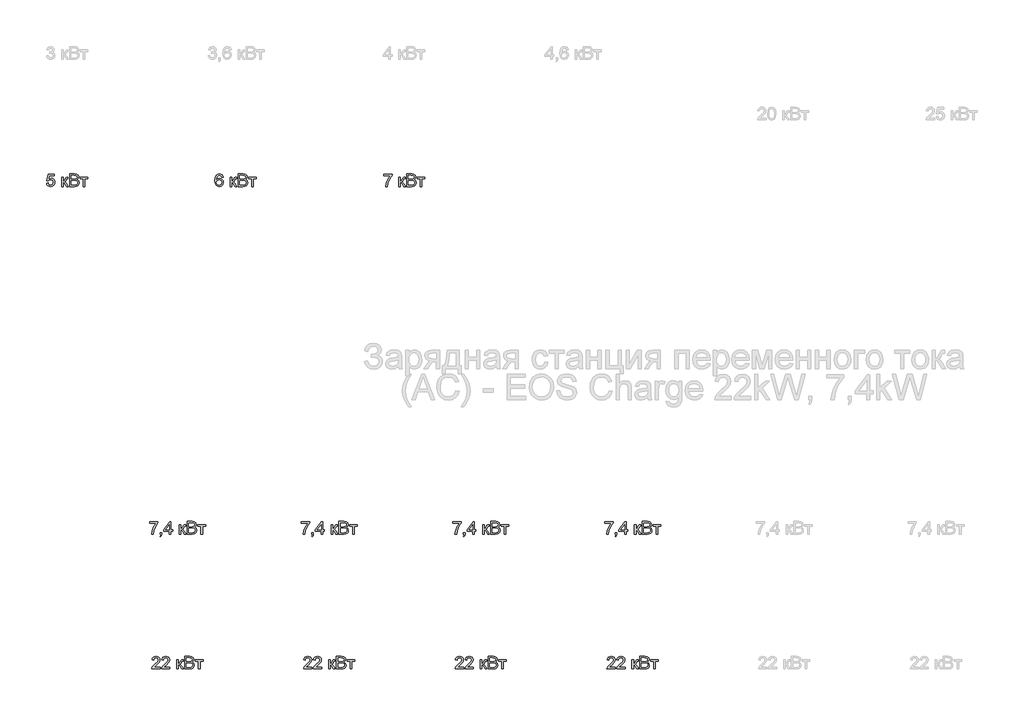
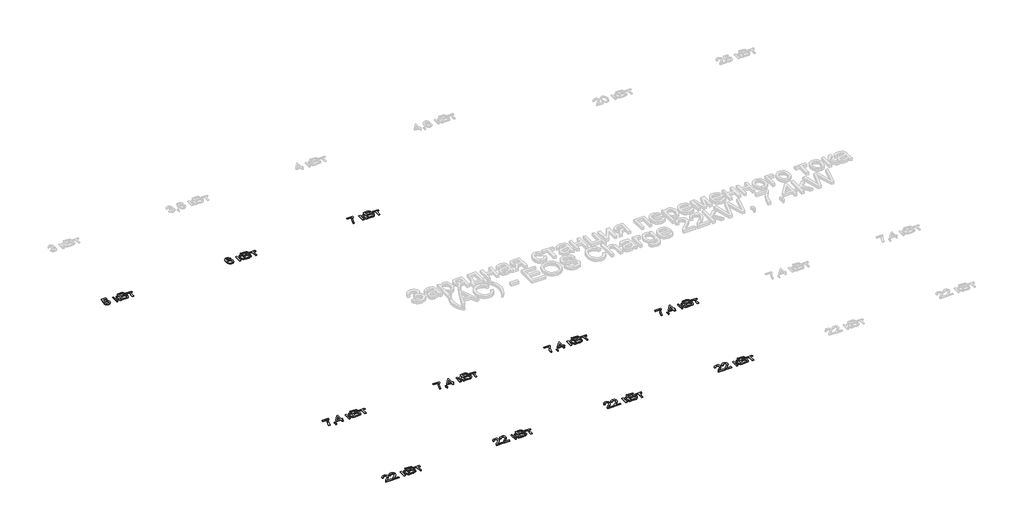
# One storey, part 1 of 26: 11 proxies.
"""IFC4 building model written with IfcOpenShell, lengths in millimetres."""

import ifcopenshell
import ifcopenshell.guid

model = None  # the IFC model being written
_history = None  # IfcOwnerHistory: only IFC2X3 demands one
_inside = {}  # id of a spatial element -> (the spatial element, [elements in it])
_under = {}  # id of a project, library or spatial element -> (it, [spatial elements below it])
_declared = {}  # id of a project -> (the project, [libraries it declares])
_typed = {}  # id of a type object -> (the type object, [elements of that type])
_made_of = {}  # id of a material, layer set ... -> (it, [elements and type objects made of it])


def new_model(schema):
    """Start an empty IFC model of exactly this schema.

    Asked for "IFC4X3", IfcOpenShell would pick the latest addendum, in which some entities
    have other attributes; the version numbers below select the first issue.
    IFC2X3 requires an IfcOwnerHistory on every rooted entity: one is made here for all.
    """
    global model, _history
    if schema == "IFC4X3":
        model = ifcopenshell.file(schema_version=(4, 3, 0, 0))
    else:
        model = ifcopenshell.file(schema=schema)
    _inside.clear()
    _under.clear()
    _declared.clear()
    _typed.clear()
    _made_of.clear()
    _history = None
    if model.schema == "IFC2X3":
        org = make("IfcOrganization", Name="unknown")
        user = make(
            "IfcPersonAndOrganization",
            ThePerson=make("IfcPerson", FamilyName="unknown"),
            TheOrganization=org,
        )
        app = make(
            "IfcApplication",
            ApplicationDeveloper=org,
            Version="unknown",
            ApplicationFullName="unknown",
            ApplicationIdentifier="unknown",
        )
        _history = make(
            "IfcOwnerHistory",
            OwningUser=user,
            OwningApplication=app,
            ChangeAction="ADDED",
            CreationDate=0,
        )
    return model


def make(cls, **values):
    """One entity of the class cls with the attributes given. An attribute that is None is left unset."""
    return model.create_entity(
        cls, **{name: value for name, value in values.items() if value is not None}
    )


def rooted(cls, **values):
    """An entity with a GlobalId (a new one), such as an element, a storey or a relation."""
    return make(cls, GlobalId=ifcopenshell.guid.new(), OwnerHistory=_history, **values)


def si_unit(unit_type, name, prefix=None):
    """IfcSIUnit, for example si_unit("LENGTHUNIT", "METRE", prefix="MILLI")."""
    return make("IfcSIUnit", UnitType=unit_type, Prefix=prefix, Name=name)


def assignment(units):
    """IfcUnitAssignment: the units of a project."""
    return None if units is None else make("IfcUnitAssignment", Units=units)


def point(xyz):
    """IfcCartesianPoint."""
    return None if xyz is None else make("IfcCartesianPoint", Coordinates=xyz)


def direction(xyz):
    """IfcDirection."""
    return None if xyz is None else make("IfcDirection", DirectionRatios=xyz)


def frame(location, z_axis=None, x_axis=None):
    """IfcAxis2Placement3D, a coordinate frame: its origin and axes. An axis left out is left unset."""
    return make(
        "IfcAxis2Placement3D",
        Location=point(location),
        Axis=direction(z_axis),
        RefDirection=direction(x_axis),
    )


def origin():
    """The frame at (0, 0, 0) with its axes left unset."""
    return frame((0.0, 0.0, 0.0))


def origin_with_axes():
    """The frame at (0, 0, 0) with the z axis (0, 0, 1) and the x axis (1, 0, 0) written out."""
    return frame((0.0, 0.0, 0.0), z_axis=(0.0, 0.0, 1.0), x_axis=(1.0, 0.0, 0.0))


def place(relative_to, where):
    """IfcLocalPlacement: puts the frame where relative to a parent placement (None: the world)."""
    return make(
        "IfcLocalPlacement", PlacementRelTo=relative_to, RelativePlacement=where
    )


def context(
    kind, dimensions, precision=None, world=None, true_north=None, identifier=None
):
    """IfcGeometricRepresentationContext, for example the 3D "Model" context."""
    return make(
        "IfcGeometricRepresentationContext",
        ContextIdentifier=identifier,
        ContextType=kind,
        CoordinateSpaceDimension=dimensions,
        Precision=precision,
        WorldCoordinateSystem=world,
        TrueNorth=true_north,
    )


def project(units=None, contexts=None):
    """IfcProject with its units and contexts."""
    return rooted(
        "IfcProject",
        Name="project",
        RepresentationContexts=contexts,
        UnitsInContext=assignment(units),
    )


def spatial(cls, under=None, at=None, **own):
    """A site, building, storey or space (cls), placed at a placement, below another one or the project."""
    s = rooted(cls, ObjectPlacement=at, **own)
    if under is not None:
        _under.setdefault(under.id(), (under, []))[1].append(s)
    return s


def polyline(points):
    """IfcPolyline through the points."""
    return make("IfcPolyline", Points=[point(p) for p in points])


def outline(outer, holes=None, kind="AREA"):
    """IfcArbitraryClosedProfileDef: a profile drawn as a closed curve; with holes, ...WithVoids."""
    if holes is None:
        return make("IfcArbitraryClosedProfileDef", ProfileType=kind, OuterCurve=outer)
    return make(
        "IfcArbitraryProfileDefWithVoids",
        ProfileType=kind,
        OuterCurve=outer,
        InnerCurves=holes,
    )


def extrude(swept, where, along, depth):
    """IfcExtrudedAreaSolid: the profile swept, set in the frame where, extruded along a direction by depth."""
    return make(
        "IfcExtrudedAreaSolid",
        SweptArea=swept,
        Position=where,
        ExtrudedDirection=direction(along),
        Depth=depth,
    )


def shape(context_of_items, identifier, shape_type, items):
    """IfcShapeRepresentation: the items that make up one representation, for example the "Body"."""
    return make(
        "IfcShapeRepresentation",
        ContextOfItems=context_of_items,
        RepresentationIdentifier=identifier,
        RepresentationType=shape_type,
        Items=items,
    )


def made_of(thing, what):
    """Note that an element or type object is made of a material, layer set ...; save() writes the relation."""
    if what is not None:
        _made_of.setdefault(what.id(), (what, []))[1].append(thing)
    return thing


def element(
    cls,
    number,
    at=None,
    inside=None,
    cuts=None,
    type_object=None,
    material=None,
    context=None,
    identifier="Body",
    shape_type=None,
    held_by="IfcProductDefinitionShape",
    body=None,
    shapes=None,
    **own,
):
    """One element of the class cls, such as IfcWall. Its Tag is "e" and its number.

    at: its placement. inside: the storey or other place that contains it. cuts: it is an
    opening in that element (IfcRelVoidsElement). A single representation is given by context,
    identifier, shape_type and body (its items); several are given by shapes. held_by: the class
    of the entity that holds the representations. save() writes the other relations.
    """
    e = rooted(cls, Tag="e%d" % number, ObjectPlacement=at, **own)
    if body is not None:
        shapes = [shape(context, identifier, shape_type, body)]
    if shapes is not None:
        e.Representation = make(held_by, Representations=shapes)
    if inside is not None:
        _inside.setdefault(inside.id(), (inside, []))[1].append(e)
    if cuts is not None:
        rooted(
            "IfcRelVoidsElement", RelatingBuildingElement=cuts, RelatedOpeningElement=e
        )
    if type_object is not None:
        _typed.setdefault(type_object.id(), (type_object, []))[1].append(e)
    return made_of(e, material)


def aggregate(whole, parts):
    """IfcRelAggregates: a whole, such as a stair, and the parts it consists of."""
    return rooted("IfcRelAggregates", RelatingObject=whole, RelatedObjects=parts)


def save(model, path):
    """Write the relations noted so far, then the file.

    IfcRelAggregates (storeys below a building ...), IfcRelContainedInSpatialStructure (elements
    in a storey), IfcRelDefinesByType, IfcRelAssociatesMaterial and IfcRelDeclares: one each for
    every whole, place, type object, material and project.
    """
    for whole, parts in _under.values():
        aggregate(whole, parts)
    for where, things in _inside.values():
        rooted(
            "IfcRelContainedInSpatialStructure",
            RelatedElements=things,
            RelatingStructure=where,
        )
    for kind, things in _typed.values():
        rooted("IfcRelDefinesByType", RelatedObjects=things, RelatingType=kind)
    for what, things in _made_of.values():
        rooted("IfcRelAssociatesMaterial", RelatedObjects=things, RelatingMaterial=what)
    for by, libraries in _declared.values():
        rooted("IfcRelDeclares", RelatingContext=by, RelatedDefinitions=libraries)
    model.write(path)


model = new_model("IFC4")

# Units and contexts
model_context = context("Model", 3, world=origin())
ifc_project = project(units=[si_unit("LENGTHUNIT", "METRE", prefix="MILLI")], contexts=[model_context])

# Site, building, storey
site = spatial("IfcSite", under=ifc_project)
building = spatial("IfcBuilding", under=site)
storey = spatial("IfcBuildingStorey", under=building, Name="Этаж 01", Elevation=0.0)

# Proxies
placement = place(None, origin())
element("IfcBuildingElementProxy", 1, Name="75 мм Arial", ObjectType="75 мм Arial", at=placement, inside=storey, context=model_context, shape_type="SweptSolid", body=[
    extrude(outline(polyline([(863.5495843, -20029.6892694), (872.9673634, -20028.512047), (877.7130411, -20038.2149346), (887.5538845, -20041.4614932), (899.3628965, -20036.9457417), (903.5751454, -20024.9619857), (899.629611, -20013.7783731), (887.7010373, -20009.6764888), (879.4328895, -20011.3135637), (874.1445858, -20015.5626007), (864.7268067, -20014.3853784), (872.9673634, -19975.5370397), (909.4612573, -19975.5370397), (909.4612573, -19984.9548187), (880.5825207, -19984.9548187), (876.5542128, -20005.7033633), (890.3313936, -20000.2587097), (899.130671, -20001.9463684), (906.4354279, -20007.0093444), (911.3535503, -20014.7256692), (912.9929245, -20024.3733745), (911.516798, -20033.7911536), (907.0884184, -20041.8477693), (898.6087385, -20048.6213965), (887.5170963, -20050.8792723), (878.2671634, -20049.4284377), (870.8980272, -20045.0759338), (865.8465475, -20038.3275985), (863.5495843, -20029.6892694)])), origin_with_axes(), (0.0, 0.0, 1.0), 5.0),
    extrude(outline(polyline([(953.0184855, -19994.3725978), (962.4362646, -19994.3725978), (962.4362646, -20017.9170455), (968.7454408, -20016.2247883), (973.9141829, -20006.3655509), (978.2092052, -19997.8582797), (981.9983897, -19995.0899677), (988.8869801, -19994.3725978), (990.6896018, -19994.3725978), (990.6896018, -20003.8455592), (988.1512161, -20003.7903769), (983.5526911, -20004.7836583), (980.3153296, -20010.9824699), (976.516948, -20017.6871193), (971.1918561, -20020.9704661), (982.9640799, -20032.3564138), (993.0440466, -20049.7020499), (982.3386806, -20049.7020499), (972.461049, -20032.7242958), (967.494642, -20025.5413999), (962.4362646, -20023.8031574), (962.4362646, -20049.7020499), (953.0184855, -20049.7020499), (953.0184855, -19994.3725978)])), origin_with_axes(), (0.0, 0.0, 1.0), 5.0),
    extrude(outline(polyline([(1000.1073809, -20049.7020499), (1000.1073809, -19974.3598173), (1028.8573588, -19974.3598173), (1042.9380422, -19976.5763063), (1051.2521753, -19983.3913203), (1054.2596106, -19993.0298285), (1051.7304219, -20001.8314053), (1044.0876734, -20008.4992664), (1053.3674968, -20015.5258125), (1056.6140554, -20027.2428541), (1054.3975664, -20037.368806), (1048.9069276, -20044.5792931), (1040.7123561, -20048.4052659), (1028.6366296, -20049.7020499), (1000.1073809, -20049.7020499)]), holes=[polyline([(1009.52516, -20004.9675993), (1026.7236433, -20004.9675993), (1036.7668217, -20004.1582589), (1042.8092835, -20000.672577), (1044.8418315, -19994.5381447), (1042.9472393, -19988.3945154), (1037.5209798, -19984.7616807), (1025.4176622, -19983.7775964), (1009.52516, -19983.7775964), (1009.52516, -20004.9675993)]), polyline([(1009.52516, -20040.2842708), (1028.8389647, -20040.2842708), (1035.8287227, -20039.9163888), (1041.7424257, -20037.8654467), (1045.660369, -20033.680789), (1047.1962763, -20027.3348246), (1045.3936545, -20020.0139729), (1039.5535279, -20015.6453742), (1027.9192598, -20014.3853784), (1009.52516, -20014.3853784), (1009.52516, -20040.2842708)])]), origin_with_axes(), (0.0, 0.0, 1.0), 5.0),
    extrude(outline(polyline([(1063.6773897, -19994.3725978), (1108.4118403, -19994.3725978), (1108.4118403, -20003.7903769), (1090.7535045, -20003.7903769), (1090.7535045, -20049.7020499), (1081.3357255, -20049.7020499), (1081.3357255, -20003.7903769), (1063.6773897, -20003.7903769), (1063.6773897, -19994.3725978)])), origin_with_axes(), (0.0, 0.0, 1.0), 5.0),
])
element("IfcBuildingElementProxy", 2, Name="75 мм Arial", ObjectType="75 мм Arial", at=placement, inside=storey, context=model_context, shape_type="SweptSolid", body=[
    extrude(outline(polyline([(1911.8157021, -19994.3725978), (1902.397923, -19995.5498202), (1898.8294677, -19987.6955396), (1889.3932945, -19983.7775964), (1880.8952204, -19986.0584647), (1874.4664825, -19994.6209182), (1871.790141, -20011.4055342), (1880.095077, -20003.8915444), (1890.3865759, -20001.4359321), (1899.086985, -20003.1143937), (1906.3894427, -20008.1497785), (1911.342054, -20015.8431108), (1912.9929245, -20025.4954146), (1909.8843216, -20038.4908461), (1901.3310652, -20047.687896), (1888.9886243, -20050.8792723), (1878.3039516, -20048.7639508), (1869.7943812, -20042.4179864), (1864.2278667, -20031.2159796), (1862.3723619, -20014.5325312), (1864.4325011, -19995.7751479), (1870.6129186, -19982.9498619), (1879.0512119, -19976.5073284), (1889.9819057, -19974.3598173), (1904.8627324, -19979.6757121), (1911.8157021, -19994.3725978)]), holes=[polyline([(1871.790141, -20025.3482618), (1873.9698418, -20033.5060451), (1879.7639833, -20039.4289452), (1888.2528603, -20041.4614932), (1899.3536995, -20037.2492444), (1903.5751454, -20025.8081143), (1899.4088818, -20014.8544279), (1887.8665842, -20010.8537112), (1876.4714394, -20014.8544279), (1871.790141, -20025.3482618)])]), origin_with_axes(), (0.0, 0.0, 1.0), 5.0),
    extrude(outline(polyline([(1953.0184855, -19994.3725978), (1962.4362646, -19994.3725978), (1962.4362646, -20017.9170455), (1968.7454408, -20016.2247883), (1973.9141829, -20006.3655509), (1978.2092052, -19997.8582797), (1981.9983897, -19995.0899677), (1988.8869801, -19994.3725978), (1990.6896018, -19994.3725978), (1990.6896018, -20003.8455592), (1988.1512161, -20003.7903769), (1983.5526911, -20004.7836583), (1980.3153296, -20010.9824699), (1976.516948, -20017.6871193), (1971.1918561, -20020.9704661), (1982.9640799, -20032.3564138), (1993.0440466, -20049.7020499), (1982.3386806, -20049.7020499), (1972.461049, -20032.7242958), (1967.494642, -20025.5413999), (1962.4362646, -20023.8031574), (1962.4362646, -20049.7020499), (1953.0184855, -20049.7020499), (1953.0184855, -19994.3725978)])), origin_with_axes(), (0.0, 0.0, 1.0), 5.0),
    extrude(outline(polyline([(2000.1073809, -20049.7020499), (2000.1073809, -19974.3598173), (2028.8573588, -19974.3598173), (2042.9380422, -19976.5763063), (2051.2521753, -19983.3913203), (2054.2596106, -19993.0298285), (2051.7304219, -20001.8314053), (2044.0876734, -20008.4992664), (2053.3674968, -20015.5258125), (2056.6140554, -20027.2428541), (2054.3975664, -20037.368806), (2048.9069276, -20044.5792931), (2040.7123561, -20048.4052659), (2028.6366296, -20049.7020499), (2000.1073809, -20049.7020499)]), holes=[polyline([(2009.52516, -20004.9675993), (2026.7236433, -20004.9675993), (2036.7668217, -20004.1582589), (2042.8092835, -20000.672577), (2044.8418315, -19994.5381447), (2042.9472393, -19988.3945154), (2037.5209798, -19984.7616807), (2025.4176622, -19983.7775964), (2009.52516, -19983.7775964), (2009.52516, -20004.9675993)]), polyline([(2009.52516, -20040.2842708), (2028.8389647, -20040.2842708), (2035.8287227, -20039.9163888), (2041.7424257, -20037.8654467), (2045.660369, -20033.680789), (2047.1962763, -20027.3348246), (2045.3936545, -20020.0139729), (2039.5535279, -20015.6453742), (2027.9192598, -20014.3853784), (2009.52516, -20014.3853784), (2009.52516, -20040.2842708)])]), origin_with_axes(), (0.0, 0.0, 1.0), 5.0),
    extrude(outline(polyline([(2063.6773897, -19994.3725978), (2108.4118403, -19994.3725978), (2108.4118403, -20003.7903769), (2090.7535045, -20003.7903769), (2090.7535045, -20049.7020499), (2081.3357255, -20049.7020499), (2081.3357255, -20003.7903769), (2063.6773897, -20003.7903769), (2063.6773897, -19994.3725978)])), origin_with_axes(), (0.0, 0.0, 1.0), 5.0),
])
element("IfcBuildingElementProxy", 3, Name="75 мм Arial", ObjectType="75 мм Arial", at=placement, inside=storey, context=model_context, shape_type="SweptSolid", body=[
    extrude(outline(polyline([(2863.5495843, -19984.9548187), (2863.5495843, -19975.5370397), (2912.9929245, -19975.5370397), (2912.9929245, -19983.152197), (2898.9674234, -20003.4132979), (2888.2344662, -20029.2294169), (2884.7395872, -20049.7020499), (2875.3218082, -20049.7020499), (2879.0650075, -20028.4568647), (2889.3381122, -20004.4433674), (2903.5751454, -19984.9548187), (2863.5495843, -19984.9548187)])), origin_with_axes(), (0.0, 0.0, 1.0), 5.0),
    extrude(outline(polyline([(2953.0184855, -19994.3725978), (2962.4362646, -19994.3725978), (2962.4362646, -20017.9170455), (2968.7454408, -20016.2247883), (2973.9141829, -20006.3655509), (2978.2092052, -19997.8582797), (2981.9983897, -19995.0899677), (2988.8869801, -19994.3725978), (2990.6896018, -19994.3725978), (2990.6896018, -20003.8455592), (2988.1512161, -20003.7903769), (2983.5526911, -20004.7836583), (2980.3153296, -20010.9824699), (2976.516948, -20017.6871193), (2971.1918561, -20020.9704661), (2982.9640799, -20032.3564138), (2993.0440466, -20049.7020499), (2982.3386806, -20049.7020499), (2972.461049, -20032.7242958), (2967.494642, -20025.5413999), (2962.4362646, -20023.8031574), (2962.4362646, -20049.7020499), (2953.0184855, -20049.7020499), (2953.0184855, -19994.3725978)])), origin_with_axes(), (0.0, 0.0, 1.0), 5.0),
    extrude(outline(polyline([(3000.1073809, -20049.7020499), (3000.1073809, -19974.3598173), (3028.8573588, -19974.3598173), (3042.9380422, -19976.5763063), (3051.2521753, -19983.3913203), (3054.2596106, -19993.0298285), (3051.7304219, -20001.8314053), (3044.0876734, -20008.4992664), (3053.3674968, -20015.5258125), (3056.6140554, -20027.2428541), (3054.3975664, -20037.368806), (3048.9069276, -20044.5792931), (3040.7123561, -20048.4052659), (3028.6366296, -20049.7020499), (3000.1073809, -20049.7020499)]), holes=[polyline([(3009.52516, -20004.9675993), (3026.7236433, -20004.9675993), (3036.7668217, -20004.1582589), (3042.8092835, -20000.672577), (3044.8418315, -19994.5381447), (3042.9472393, -19988.3945154), (3037.5209798, -19984.7616807), (3025.4176622, -19983.7775964), (3009.52516, -19983.7775964), (3009.52516, -20004.9675993)]), polyline([(3009.52516, -20040.2842708), (3028.8389647, -20040.2842708), (3035.8287227, -20039.9163888), (3041.7424257, -20037.8654467), (3045.660369, -20033.680789), (3047.1962763, -20027.3348246), (3045.3936545, -20020.0139729), (3039.5535279, -20015.6453742), (3027.9192598, -20014.3853784), (3009.52516, -20014.3853784), (3009.52516, -20040.2842708)])]), origin_with_axes(), (0.0, 0.0, 1.0), 5.0),
    extrude(outline(polyline([(3063.6773897, -19994.3725978), (3108.4118403, -19994.3725978), (3108.4118403, -20003.7903769), (3090.7535045, -20003.7903769), (3090.7535045, -20049.7020499), (3081.3357255, -20049.7020499), (3081.3357255, -20003.7903769), (3063.6773897, -20003.7903769), (3063.6773897, -19994.3725978)])), origin_with_axes(), (0.0, 0.0, 1.0), 5.0),
])
element("IfcBuildingElementProxy", 4, Name="75 мм Arial", ObjectType="75 мм Arial", at=placement, inside=storey, context=model_context, shape_type="SweptSolid", body=[
    extrude(outline(polyline([(1474.5962232, -22047.1362973), (1474.5962232, -22037.7185182), (1524.0395633, -22037.7185182), (1524.0395633, -22045.3336755), (1510.0140622, -22065.5947764), (1499.281105, -22091.4108954), (1495.7862261, -22111.8835284), (1486.368447, -22111.8835284), (1490.1116463, -22090.6383432), (1500.384751, -22066.624846), (1514.6217842, -22047.1362973), (1474.5962232, -22047.1362973)])), origin_with_axes(), (0.0, 0.0, 1.0), 5.0),
    extrude(outline(polyline([(1536.9890095, -22111.8835284), (1536.9890095, -22102.4657493), (1546.4067886, -22102.4657493), (1546.4067886, -22111.8835284), (1544.7145314, -22121.5128396), (1539.3434543, -22127.1874194), (1536.9890095, -22123.6557523), (1540.4471003, -22119.5906562), (1541.679505, -22111.8835284), (1536.9890095, -22111.8835284)])), origin_with_axes(), (0.0, 0.0, 1.0), 5.0),
    extrude(outline(polyline([(1592.3184616, -22111.8835284), (1592.3184616, -22094.2251927), (1558.1790125, -22094.2251927), (1558.1790125, -22084.8074136), (1594.6729064, -22037.7185182), (1601.7362407, -22037.7185182), (1601.7362407, -22084.8074136), (1611.1540198, -22084.8074136), (1611.1540198, -22094.2251927), (1601.7362407, -22094.2251927), (1601.7362407, -22111.8835284), (1592.3184616, -22111.8835284)]), holes=[polyline([(1592.3184616, -22084.8074136), (1592.3184616, -22055.7079478), (1569.7672953, -22084.8074136), (1592.3184616, -22084.8074136)])]), origin_with_axes(), (0.0, 0.0, 1.0), 5.0),
    extrude(outline(polyline([(1651.1795808, -22056.5540763), (1660.5973599, -22056.5540763), (1660.5973599, -22080.098524), (1666.9065361, -22078.4062669), (1672.0752782, -22068.5470294), (1676.3703005, -22060.0397583), (1680.159485, -22057.2714462), (1687.0480754, -22056.5540763), (1688.8506972, -22056.5540763), (1688.8506972, -22066.0270377), (1686.3123114, -22065.9718554), (1681.7137864, -22066.9651368), (1678.4764249, -22073.1639484), (1674.6780433, -22079.8685978), (1669.3529514, -22083.1519446), (1681.1251753, -22094.5378924), (1691.2051419, -22111.8835284), (1680.4997759, -22111.8835284), (1670.6221443, -22094.9057743), (1665.6557374, -22087.7228784), (1660.5973599, -22085.984636), (1660.5973599, -22111.8835284), (1651.1795808, -22111.8835284), (1651.1795808, -22056.5540763)])), origin_with_axes(), (0.0, 0.0, 1.0), 5.0),
    extrude(outline(polyline([(1698.2684762, -22111.8835284), (1698.2684762, -22036.5412958), (1727.0184542, -22036.5412958), (1741.0991375, -22038.7577848), (1749.4132706, -22045.5727988), (1752.4207059, -22055.2113071), (1749.8915172, -22064.0128838), (1742.2487688, -22070.680745), (1751.5285921, -22077.7072911), (1754.7751507, -22089.4243326), (1752.5586617, -22099.5502845), (1747.0680229, -22106.7607716), (1738.8734514, -22110.5867444), (1726.797725, -22111.8835284), (1698.2684762, -22111.8835284)]), holes=[polyline([(1707.6862553, -22102.4657493), (1727.0000601, -22102.4657493), (1733.989818, -22102.0978674), (1739.903521, -22100.0469252), (1743.8214643, -22095.8622675), (1745.3573716, -22089.5163031), (1743.5547498, -22082.1954514), (1737.7146232, -22077.8268527), (1726.0803551, -22076.5668569), (1707.6862553, -22076.5668569), (1707.6862553, -22102.4657493)]), polyline([(1707.6862553, -22067.1490778), (1724.8847386, -22067.1490778), (1734.9279171, -22066.3397374), (1740.9703788, -22062.8540555), (1743.0029268, -22056.7196232), (1741.1083346, -22050.5759939), (1735.6820751, -22046.9431592), (1723.5787575, -22045.9590749), (1707.6862553, -22045.9590749), (1707.6862553, -22067.1490778)])]), origin_with_axes(), (0.0, 0.0, 1.0), 5.0),
    extrude(outline(polyline([(1761.838485, -22056.5540763), (1806.5729356, -22056.5540763), (1806.5729356, -22065.9718554), (1788.9145998, -22065.9718554), (1788.9145998, -22111.8835284), (1779.4968208, -22111.8835284), (1779.4968208, -22065.9718554), (1761.838485, -22065.9718554), (1761.838485, -22056.5540763)])), origin_with_axes(), (0.0, 0.0, 1.0), 5.0),
])
element("IfcBuildingElementProxy", 5, Name="75 мм Arial", ObjectType="75 мм Arial", at=placement, inside=storey, context=model_context, shape_type="SweptSolid", body=[
    extrude(outline(polyline([(2374.5962232, -22047.1362973), (2374.5962232, -22037.7185182), (2424.0395633, -22037.7185182), (2424.0395633, -22045.3336755), (2410.0140622, -22065.5947764), (2399.281105, -22091.4108954), (2395.7862261, -22111.8835284), (2386.368447, -22111.8835284), (2390.1116463, -22090.6383432), (2400.384751, -22066.624846), (2414.6217842, -22047.1362973), (2374.5962232, -22047.1362973)])), origin_with_axes(), (0.0, 0.0, 1.0), 5.0),
    extrude(outline(polyline([(2436.9890095, -22111.8835284), (2436.9890095, -22102.4657493), (2446.4067886, -22102.4657493), (2446.4067886, -22111.8835284), (2444.7145314, -22121.5128396), (2439.3434543, -22127.1874194), (2436.9890095, -22123.6557523), (2440.4471003, -22119.5906562), (2441.679505, -22111.8835284), (2436.9890095, -22111.8835284)])), origin_with_axes(), (0.0, 0.0, 1.0), 5.0),
    extrude(outline(polyline([(2492.3184616, -22111.8835284), (2492.3184616, -22094.2251927), (2458.1790125, -22094.2251927), (2458.1790125, -22084.8074136), (2494.6729064, -22037.7185182), (2501.7362407, -22037.7185182), (2501.7362407, -22084.8074136), (2511.1540198, -22084.8074136), (2511.1540198, -22094.2251927), (2501.7362407, -22094.2251927), (2501.7362407, -22111.8835284), (2492.3184616, -22111.8835284)]), holes=[polyline([(2492.3184616, -22084.8074136), (2492.3184616, -22055.7079478), (2469.7672953, -22084.8074136), (2492.3184616, -22084.8074136)])]), origin_with_axes(), (0.0, 0.0, 1.0), 5.0),
    extrude(outline(polyline([(2551.1795808, -22056.5540763), (2560.5973599, -22056.5540763), (2560.5973599, -22080.098524), (2566.9065361, -22078.4062669), (2572.0752782, -22068.5470294), (2576.3703005, -22060.0397583), (2580.159485, -22057.2714462), (2587.0480754, -22056.5540763), (2588.8506972, -22056.5540763), (2588.8506972, -22066.0270377), (2586.3123114, -22065.9718554), (2581.7137864, -22066.9651368), (2578.4764249, -22073.1639484), (2574.6780433, -22079.8685978), (2569.3529514, -22083.1519446), (2581.1251753, -22094.5378924), (2591.2051419, -22111.8835284), (2580.4997759, -22111.8835284), (2570.6221443, -22094.9057743), (2565.6557374, -22087.7228784), (2560.5973599, -22085.984636), (2560.5973599, -22111.8835284), (2551.1795808, -22111.8835284), (2551.1795808, -22056.5540763)])), origin_with_axes(), (0.0, 0.0, 1.0), 5.0),
    extrude(outline(polyline([(2598.2684762, -22111.8835284), (2598.2684762, -22036.5412958), (2627.0184542, -22036.5412958), (2641.0991375, -22038.7577848), (2649.4132706, -22045.5727988), (2652.4207059, -22055.2113071), (2649.8915172, -22064.0128838), (2642.2487688, -22070.680745), (2651.5285921, -22077.7072911), (2654.7751507, -22089.4243326), (2652.5586617, -22099.5502845), (2647.0680229, -22106.7607716), (2638.8734514, -22110.5867444), (2626.797725, -22111.8835284), (2598.2684762, -22111.8835284)]), holes=[polyline([(2607.6862553, -22102.4657493), (2627.0000601, -22102.4657493), (2633.989818, -22102.0978674), (2639.903521, -22100.0469252), (2643.8214643, -22095.8622675), (2645.3573716, -22089.5163031), (2643.5547498, -22082.1954514), (2637.7146232, -22077.8268527), (2626.0803551, -22076.5668569), (2607.6862553, -22076.5668569), (2607.6862553, -22102.4657493)]), polyline([(2607.6862553, -22067.1490778), (2624.8847386, -22067.1490778), (2634.9279171, -22066.3397374), (2640.9703788, -22062.8540555), (2643.0029268, -22056.7196232), (2641.1083346, -22050.5759939), (2635.6820751, -22046.9431592), (2623.5787575, -22045.9590749), (2607.6862553, -22045.9590749), (2607.6862553, -22067.1490778)])]), origin_with_axes(), (0.0, 0.0, 1.0), 5.0),
    extrude(outline(polyline([(2661.838485, -22056.5540763), (2706.5729356, -22056.5540763), (2706.5729356, -22065.9718554), (2688.9145998, -22065.9718554), (2688.9145998, -22111.8835284), (2679.4968208, -22111.8835284), (2679.4968208, -22065.9718554), (2661.838485, -22065.9718554), (2661.838485, -22056.5540763)])), origin_with_axes(), (0.0, 0.0, 1.0), 5.0),
])
element("IfcBuildingElementProxy", 6, Name="75 мм Arial", ObjectType="75 мм Arial", at=placement, inside=storey, context=model_context, shape_type="SweptSolid", body=[
    extrude(outline(polyline([(3274.5962232, -22047.1362973), (3274.5962232, -22037.7185182), (3324.0395633, -22037.7185182), (3324.0395633, -22045.3336755), (3310.0140622, -22065.5947764), (3299.281105, -22091.4108954), (3295.7862261, -22111.8835284), (3286.368447, -22111.8835284), (3290.1116463, -22090.6383432), (3300.384751, -22066.624846), (3314.6217842, -22047.1362973), (3274.5962232, -22047.1362973)])), origin_with_axes(), (0.0, 0.0, 1.0), 5.0),
    extrude(outline(polyline([(3336.9890095, -22111.8835284), (3336.9890095, -22102.4657493), (3346.4067886, -22102.4657493), (3346.4067886, -22111.8835284), (3344.7145314, -22121.5128396), (3339.3434543, -22127.1874194), (3336.9890095, -22123.6557523), (3340.4471003, -22119.5906562), (3341.679505, -22111.8835284), (3336.9890095, -22111.8835284)])), origin_with_axes(), (0.0, 0.0, 1.0), 5.0),
    extrude(outline(polyline([(3392.3184616, -22111.8835284), (3392.3184616, -22094.2251927), (3358.1790125, -22094.2251927), (3358.1790125, -22084.8074136), (3394.6729064, -22037.7185182), (3401.7362407, -22037.7185182), (3401.7362407, -22084.8074136), (3411.1540198, -22084.8074136), (3411.1540198, -22094.2251927), (3401.7362407, -22094.2251927), (3401.7362407, -22111.8835284), (3392.3184616, -22111.8835284)]), holes=[polyline([(3392.3184616, -22084.8074136), (3392.3184616, -22055.7079478), (3369.7672953, -22084.8074136), (3392.3184616, -22084.8074136)])]), origin_with_axes(), (0.0, 0.0, 1.0), 5.0),
    extrude(outline(polyline([(3451.1795808, -22056.5540763), (3460.5973599, -22056.5540763), (3460.5973599, -22080.098524), (3466.9065361, -22078.4062669), (3472.0752782, -22068.5470294), (3476.3703005, -22060.0397583), (3480.159485, -22057.2714462), (3487.0480754, -22056.5540763), (3488.8506972, -22056.5540763), (3488.8506972, -22066.0270377), (3486.3123114, -22065.9718554), (3481.7137864, -22066.9651368), (3478.4764249, -22073.1639484), (3474.6780433, -22079.8685978), (3469.3529514, -22083.1519446), (3481.1251753, -22094.5378924), (3491.2051419, -22111.8835284), (3480.4997759, -22111.8835284), (3470.6221443, -22094.9057743), (3465.6557374, -22087.7228784), (3460.5973599, -22085.984636), (3460.5973599, -22111.8835284), (3451.1795808, -22111.8835284), (3451.1795808, -22056.5540763)])), origin_with_axes(), (0.0, 0.0, 1.0), 5.0),
    extrude(outline(polyline([(3498.2684762, -22111.8835284), (3498.2684762, -22036.5412958), (3527.0184542, -22036.5412958), (3541.0991375, -22038.7577848), (3549.4132706, -22045.5727988), (3552.4207059, -22055.2113071), (3549.8915172, -22064.0128838), (3542.2487688, -22070.680745), (3551.5285921, -22077.7072911), (3554.7751507, -22089.4243326), (3552.5586617, -22099.5502845), (3547.0680229, -22106.7607716), (3538.8734514, -22110.5867444), (3526.797725, -22111.8835284), (3498.2684762, -22111.8835284)]), holes=[polyline([(3507.6862553, -22102.4657493), (3527.0000601, -22102.4657493), (3533.989818, -22102.0978674), (3539.903521, -22100.0469252), (3543.8214643, -22095.8622675), (3545.3573716, -22089.5163031), (3543.5547498, -22082.1954514), (3537.7146232, -22077.8268527), (3526.0803551, -22076.5668569), (3507.6862553, -22076.5668569), (3507.6862553, -22102.4657493)]), polyline([(3507.6862553, -22067.1490778), (3524.8847386, -22067.1490778), (3534.9279171, -22066.3397374), (3540.9703788, -22062.8540555), (3543.0029268, -22056.7196232), (3541.1083346, -22050.5759939), (3535.6820751, -22046.9431592), (3523.5787575, -22045.9590749), (3507.6862553, -22045.9590749), (3507.6862553, -22067.1490778)])]), origin_with_axes(), (0.0, 0.0, 1.0), 5.0),
    extrude(outline(polyline([(3561.838485, -22056.5540763), (3606.5729356, -22056.5540763), (3606.5729356, -22065.9718554), (3588.9145998, -22065.9718554), (3588.9145998, -22111.8835284), (3579.4968208, -22111.8835284), (3579.4968208, -22065.9718554), (3561.838485, -22065.9718554), (3561.838485, -22056.5540763)])), origin_with_axes(), (0.0, 0.0, 1.0), 5.0),
])
element("IfcBuildingElementProxy", 7, Name="75 мм Arial", ObjectType="75 мм Arial", at=placement, inside=storey, context=model_context, shape_type="SweptSolid", body=[
    extrude(outline(polyline([(4174.5962232, -22047.1362973), (4174.5962232, -22037.7185182), (4224.0395633, -22037.7185182), (4224.0395633, -22045.3336755), (4210.0140622, -22065.5947764), (4199.281105, -22091.4108954), (4195.7862261, -22111.8835284), (4186.368447, -22111.8835284), (4190.1116463, -22090.6383432), (4200.384751, -22066.624846), (4214.6217842, -22047.1362973), (4174.5962232, -22047.1362973)])), origin_with_axes(), (0.0, 0.0, 1.0), 5.0),
    extrude(outline(polyline([(4236.9890095, -22111.8835284), (4236.9890095, -22102.4657493), (4246.4067886, -22102.4657493), (4246.4067886, -22111.8835284), (4244.7145314, -22121.5128396), (4239.3434543, -22127.1874194), (4236.9890095, -22123.6557523), (4240.4471003, -22119.5906562), (4241.679505, -22111.8835284), (4236.9890095, -22111.8835284)])), origin_with_axes(), (0.0, 0.0, 1.0), 5.0),
    extrude(outline(polyline([(4292.3184616, -22111.8835284), (4292.3184616, -22094.2251927), (4258.1790125, -22094.2251927), (4258.1790125, -22084.8074136), (4294.6729064, -22037.7185182), (4301.7362407, -22037.7185182), (4301.7362407, -22084.8074136), (4311.1540198, -22084.8074136), (4311.1540198, -22094.2251927), (4301.7362407, -22094.2251927), (4301.7362407, -22111.8835284), (4292.3184616, -22111.8835284)]), holes=[polyline([(4292.3184616, -22084.8074136), (4292.3184616, -22055.7079478), (4269.7672953, -22084.8074136), (4292.3184616, -22084.8074136)])]), origin_with_axes(), (0.0, 0.0, 1.0), 5.0),
    extrude(outline(polyline([(4351.1795808, -22056.5540763), (4360.5973599, -22056.5540763), (4360.5973599, -22080.098524), (4366.9065361, -22078.4062669), (4372.0752782, -22068.5470294), (4376.3703005, -22060.0397583), (4380.159485, -22057.2714462), (4387.0480754, -22056.5540763), (4388.8506972, -22056.5540763), (4388.8506972, -22066.0270377), (4386.3123114, -22065.9718554), (4381.7137864, -22066.9651368), (4378.4764249, -22073.1639484), (4374.6780433, -22079.8685978), (4369.3529514, -22083.1519446), (4381.1251753, -22094.5378924), (4391.2051419, -22111.8835284), (4380.4997759, -22111.8835284), (4370.6221443, -22094.9057743), (4365.6557374, -22087.7228784), (4360.5973599, -22085.984636), (4360.5973599, -22111.8835284), (4351.1795808, -22111.8835284), (4351.1795808, -22056.5540763)])), origin_with_axes(), (0.0, 0.0, 1.0), 5.0),
    extrude(outline(polyline([(4398.2684762, -22111.8835284), (4398.2684762, -22036.5412958), (4427.0184542, -22036.5412958), (4441.0991375, -22038.7577848), (4449.4132706, -22045.5727988), (4452.4207059, -22055.2113071), (4449.8915172, -22064.0128838), (4442.2487688, -22070.680745), (4451.5285921, -22077.7072911), (4454.7751507, -22089.4243326), (4452.5586617, -22099.5502845), (4447.0680229, -22106.7607716), (4438.8734514, -22110.5867444), (4426.797725, -22111.8835284), (4398.2684762, -22111.8835284)]), holes=[polyline([(4407.6862553, -22102.4657493), (4427.0000601, -22102.4657493), (4433.989818, -22102.0978674), (4439.903521, -22100.0469252), (4443.8214643, -22095.8622675), (4445.3573716, -22089.5163031), (4443.5547498, -22082.1954514), (4437.7146232, -22077.8268527), (4426.0803551, -22076.5668569), (4407.6862553, -22076.5668569), (4407.6862553, -22102.4657493)]), polyline([(4407.6862553, -22067.1490778), (4424.8847386, -22067.1490778), (4434.9279171, -22066.3397374), (4440.9703788, -22062.8540555), (4443.0029268, -22056.7196232), (4441.1083346, -22050.5759939), (4435.6820751, -22046.9431592), (4423.5787575, -22045.9590749), (4407.6862553, -22045.9590749), (4407.6862553, -22067.1490778)])]), origin_with_axes(), (0.0, 0.0, 1.0), 5.0),
    extrude(outline(polyline([(4461.838485, -22056.5540763), (4506.5729356, -22056.5540763), (4506.5729356, -22065.9718554), (4488.9145998, -22065.9718554), (4488.9145998, -22111.8835284), (4479.4968208, -22111.8835284), (4479.4968208, -22065.9718554), (4461.838485, -22065.9718554), (4461.838485, -22056.5540763)])), origin_with_axes(), (0.0, 0.0, 1.0), 5.0),
])
element("IfcBuildingElementProxy", 8, Name="75 мм Arial", ObjectType="75 мм Arial", at=placement, inside=storey, context=model_context, shape_type="SweptSolid", body=[
    extrude(outline(polyline([(1537.5776207, -22902.4657493), (1537.5776207, -22911.8835284), (1488.1342806, -22911.8835284), (1489.1459561, -22905.3904112), (1494.8665211, -22895.393218), (1506.657139, -22884.4763198), (1522.9175232, -22868.7861527), (1526.9826193, -22858.1175748), (1523.1474495, -22849.481545), (1513.1318622, -22845.9590749), (1502.6932105, -22849.3987715), (1498.729282, -22858.9085211), (1489.311503, -22857.7312987), (1491.5946706, -22848.6216208), (1496.5311871, -22841.9675552), (1503.8635351, -22837.8978607), (1513.3341973, -22836.5412958), (1522.8738372, -22838.049612), (1530.1923897, -22842.5745605), (1534.8483962, -22849.3343922), (1536.4003984, -22857.5473577), (1534.7265353, -22866.4776932), (1529.1623201, -22875.7115312), (1515.6702479, -22888.6149922), (1504.8361232, -22897.6740864), (1500.5870861, -22902.4657493), (1537.5776207, -22902.4657493)])), origin_with_axes(), (0.0, 0.0, 1.0), 5.0),
    extrude(outline(polyline([(1595.2615176, -22902.4657493), (1595.2615176, -22911.8835284), (1545.8181774, -22911.8835284), (1546.8298529, -22905.3904112), (1552.5504179, -22895.393218), (1564.3410359, -22884.4763198), (1580.6014201, -22868.7861527), (1584.6665161, -22858.1175748), (1580.8313463, -22849.481545), (1570.815759, -22845.9590749), (1560.3771074, -22849.3987715), (1556.4131789, -22858.9085211), (1546.9953998, -22857.7312987), (1549.2785674, -22848.6216208), (1554.215084, -22841.9675552), (1561.547432, -22837.8978607), (1571.0180941, -22836.5412958), (1580.5577341, -22838.049612), (1587.8762865, -22842.5745605), (1592.532293, -22849.3343922), (1594.0842952, -22857.5473577), (1592.4104321, -22866.4776932), (1586.8462169, -22875.7115312), (1573.3541448, -22888.6149922), (1562.52002, -22897.6740864), (1558.270983, -22902.4657493), (1595.2615176, -22902.4657493)])), origin_with_axes(), (0.0, 0.0, 1.0), 5.0),
    extrude(outline(polyline([(1636.464301, -22856.5540763), (1645.8820801, -22856.5540763), (1645.8820801, -22880.098524), (1652.1912563, -22878.4062669), (1657.3599984, -22868.5470294), (1661.6550207, -22860.0397583), (1665.4442052, -22857.2714462), (1672.3327956, -22856.5540763), (1674.1354173, -22856.5540763), (1674.1354173, -22866.0270377), (1671.5970316, -22865.9718554), (1666.9985066, -22866.9651368), (1663.7611451, -22873.1639484), (1659.9627635, -22879.8685978), (1654.6376716, -22883.1519446), (1666.4098954, -22894.5378924), (1676.4898621, -22911.8835284), (1665.7844961, -22911.8835284), (1655.9068645, -22894.9057743), (1650.9404576, -22887.7228784), (1645.8820801, -22885.984636), (1645.8820801, -22911.8835284), (1636.464301, -22911.8835284), (1636.464301, -22856.5540763)])), origin_with_axes(), (0.0, 0.0, 1.0), 5.0),
    extrude(outline(polyline([(1683.5531964, -22911.8835284), (1683.5531964, -22836.5412958), (1712.3031743, -22836.5412958), (1726.3838577, -22838.7577848), (1734.6979908, -22845.5727988), (1737.7054261, -22855.2113071), (1735.1762374, -22864.0128838), (1727.5334889, -22870.680745), (1736.8133123, -22877.7072911), (1740.0598709, -22889.4243326), (1737.8433819, -22899.5502845), (1732.3527431, -22906.7607716), (1724.1581716, -22910.5867444), (1712.0824451, -22911.8835284), (1683.5531964, -22911.8835284)]), holes=[polyline([(1692.9709755, -22902.4657493), (1712.2847802, -22902.4657493), (1719.2745382, -22902.0978674), (1725.1882412, -22900.0469252), (1729.1061845, -22895.8622675), (1730.6420918, -22889.5163031), (1728.83947, -22882.1954514), (1722.9993434, -22877.8268527), (1711.3650753, -22876.5668569), (1692.9709755, -22876.5668569), (1692.9709755, -22902.4657493)]), polyline([(1692.9709755, -22867.1490778), (1710.1694588, -22867.1490778), (1720.2126372, -22866.3397374), (1726.255099, -22862.8540555), (1728.287647, -22856.7196232), (1726.3930548, -22850.5759939), (1720.9667953, -22846.9431592), (1708.8634777, -22845.9590749), (1692.9709755, -22845.9590749), (1692.9709755, -22867.1490778)])]), origin_with_axes(), (0.0, 0.0, 1.0), 5.0),
    extrude(outline(polyline([(1747.1232052, -22856.5540763), (1791.8576558, -22856.5540763), (1791.8576558, -22865.9718554), (1774.19932, -22865.9718554), (1774.19932, -22911.8835284), (1764.781541, -22911.8835284), (1764.781541, -22865.9718554), (1747.1232052, -22865.9718554), (1747.1232052, -22856.5540763)])), origin_with_axes(), (0.0, 0.0, 1.0), 5.0),
])
element("IfcBuildingElementProxy", 9, Name="75 мм Arial", ObjectType="75 мм Arial", at=placement, inside=storey, context=model_context, shape_type="SweptSolid", body=[
    extrude(outline(polyline([(2437.5776207, -22902.4657493), (2437.5776207, -22911.8835284), (2388.1342806, -22911.8835284), (2389.1459561, -22905.3904112), (2394.8665211, -22895.393218), (2406.657139, -22884.4763198), (2422.9175232, -22868.7861527), (2426.9826193, -22858.1175748), (2423.1474495, -22849.481545), (2413.1318622, -22845.9590749), (2402.6932105, -22849.3987715), (2398.729282, -22858.9085211), (2389.311503, -22857.7312987), (2391.5946706, -22848.6216208), (2396.5311871, -22841.9675552), (2403.8635351, -22837.8978607), (2413.3341973, -22836.5412958), (2422.8738372, -22838.049612), (2430.1923897, -22842.5745605), (2434.8483962, -22849.3343922), (2436.4003984, -22857.5473577), (2434.7265353, -22866.4776932), (2429.1623201, -22875.7115312), (2415.6702479, -22888.6149922), (2404.8361232, -22897.6740864), (2400.5870861, -22902.4657493), (2437.5776207, -22902.4657493)])), origin_with_axes(), (0.0, 0.0, 1.0), 5.0),
    extrude(outline(polyline([(2495.2615176, -22902.4657493), (2495.2615176, -22911.8835284), (2445.8181774, -22911.8835284), (2446.8298529, -22905.3904112), (2452.5504179, -22895.393218), (2464.3410359, -22884.4763198), (2480.6014201, -22868.7861527), (2484.6665161, -22858.1175748), (2480.8313463, -22849.481545), (2470.815759, -22845.9590749), (2460.3771074, -22849.3987715), (2456.4131789, -22858.9085211), (2446.9953998, -22857.7312987), (2449.2785674, -22848.6216208), (2454.215084, -22841.9675552), (2461.547432, -22837.8978607), (2471.0180941, -22836.5412958), (2480.5577341, -22838.049612), (2487.8762865, -22842.5745605), (2492.532293, -22849.3343922), (2494.0842952, -22857.5473577), (2492.4104321, -22866.4776932), (2486.8462169, -22875.7115312), (2473.3541448, -22888.6149922), (2462.52002, -22897.6740864), (2458.270983, -22902.4657493), (2495.2615176, -22902.4657493)])), origin_with_axes(), (0.0, 0.0, 1.0), 5.0),
    extrude(outline(polyline([(2536.464301, -22856.5540763), (2545.8820801, -22856.5540763), (2545.8820801, -22880.098524), (2552.1912563, -22878.4062669), (2557.3599984, -22868.5470294), (2561.6550207, -22860.0397583), (2565.4442052, -22857.2714462), (2572.3327956, -22856.5540763), (2574.1354173, -22856.5540763), (2574.1354173, -22866.0270377), (2571.5970316, -22865.9718554), (2566.9985066, -22866.9651368), (2563.7611451, -22873.1639484), (2559.9627635, -22879.8685978), (2554.6376716, -22883.1519446), (2566.4098954, -22894.5378924), (2576.4898621, -22911.8835284), (2565.7844961, -22911.8835284), (2555.9068645, -22894.9057743), (2550.9404576, -22887.7228784), (2545.8820801, -22885.984636), (2545.8820801, -22911.8835284), (2536.464301, -22911.8835284), (2536.464301, -22856.5540763)])), origin_with_axes(), (0.0, 0.0, 1.0), 5.0),
    extrude(outline(polyline([(2583.5531964, -22911.8835284), (2583.5531964, -22836.5412958), (2612.3031743, -22836.5412958), (2626.3838577, -22838.7577848), (2634.6979908, -22845.5727988), (2637.7054261, -22855.2113071), (2635.1762374, -22864.0128838), (2627.5334889, -22870.680745), (2636.8133123, -22877.7072911), (2640.0598709, -22889.4243326), (2637.8433819, -22899.5502845), (2632.3527431, -22906.7607716), (2624.1581716, -22910.5867444), (2612.0824451, -22911.8835284), (2583.5531964, -22911.8835284)]), holes=[polyline([(2592.9709755, -22902.4657493), (2612.2847802, -22902.4657493), (2619.2745382, -22902.0978674), (2625.1882412, -22900.0469252), (2629.1061845, -22895.8622675), (2630.6420918, -22889.5163031), (2628.83947, -22882.1954514), (2622.9993434, -22877.8268527), (2611.3650753, -22876.5668569), (2592.9709755, -22876.5668569), (2592.9709755, -22902.4657493)]), polyline([(2592.9709755, -22867.1490778), (2610.1694588, -22867.1490778), (2620.2126372, -22866.3397374), (2626.255099, -22862.8540555), (2628.287647, -22856.7196232), (2626.3930548, -22850.5759939), (2620.9667953, -22846.9431592), (2608.8634777, -22845.9590749), (2592.9709755, -22845.9590749), (2592.9709755, -22867.1490778)])]), origin_with_axes(), (0.0, 0.0, 1.0), 5.0),
    extrude(outline(polyline([(2647.1232052, -22856.5540763), (2691.8576558, -22856.5540763), (2691.8576558, -22865.9718554), (2674.19932, -22865.9718554), (2674.19932, -22911.8835284), (2664.781541, -22911.8835284), (2664.781541, -22865.9718554), (2647.1232052, -22865.9718554), (2647.1232052, -22856.5540763)])), origin_with_axes(), (0.0, 0.0, 1.0), 5.0),
])
element("IfcBuildingElementProxy", 10, Name="75 мм Arial", ObjectType="75 мм Arial", at=placement, inside=storey, context=model_context, shape_type="SweptSolid", body=[
    extrude(outline(polyline([(3337.5776207, -22902.4657493), (3337.5776207, -22911.8835284), (3288.1342806, -22911.8835284), (3289.1459561, -22905.3904112), (3294.8665211, -22895.393218), (3306.657139, -22884.4763198), (3322.9175232, -22868.7861527), (3326.9826193, -22858.1175748), (3323.1474495, -22849.481545), (3313.1318622, -22845.9590749), (3302.6932105, -22849.3987715), (3298.729282, -22858.9085211), (3289.311503, -22857.7312987), (3291.5946706, -22848.6216208), (3296.5311871, -22841.9675552), (3303.8635351, -22837.8978607), (3313.3341973, -22836.5412958), (3322.8738372, -22838.049612), (3330.1923897, -22842.5745605), (3334.8483962, -22849.3343922), (3336.4003984, -22857.5473577), (3334.7265353, -22866.4776932), (3329.1623201, -22875.7115312), (3315.6702479, -22888.6149922), (3304.8361232, -22897.6740864), (3300.5870861, -22902.4657493), (3337.5776207, -22902.4657493)])), origin_with_axes(), (0.0, 0.0, 1.0), 5.0),
    extrude(outline(polyline([(3395.2615176, -22902.4657493), (3395.2615176, -22911.8835284), (3345.8181774, -22911.8835284), (3346.8298529, -22905.3904112), (3352.5504179, -22895.393218), (3364.3410359, -22884.4763198), (3380.6014201, -22868.7861527), (3384.6665161, -22858.1175748), (3380.8313463, -22849.481545), (3370.815759, -22845.9590749), (3360.3771074, -22849.3987715), (3356.4131789, -22858.9085211), (3346.9953998, -22857.7312987), (3349.2785674, -22848.6216208), (3354.215084, -22841.9675552), (3361.547432, -22837.8978607), (3371.0180941, -22836.5412958), (3380.5577341, -22838.049612), (3387.8762865, -22842.5745605), (3392.532293, -22849.3343922), (3394.0842952, -22857.5473577), (3392.4104321, -22866.4776932), (3386.8462169, -22875.7115312), (3373.3541448, -22888.6149922), (3362.52002, -22897.6740864), (3358.270983, -22902.4657493), (3395.2615176, -22902.4657493)])), origin_with_axes(), (0.0, 0.0, 1.0), 5.0),
    extrude(outline(polyline([(3436.464301, -22856.5540763), (3445.8820801, -22856.5540763), (3445.8820801, -22880.098524), (3452.1912563, -22878.4062669), (3457.3599984, -22868.5470294), (3461.6550207, -22860.0397583), (3465.4442052, -22857.2714462), (3472.3327956, -22856.5540763), (3474.1354173, -22856.5540763), (3474.1354173, -22866.0270377), (3471.5970316, -22865.9718554), (3466.9985066, -22866.9651368), (3463.7611451, -22873.1639484), (3459.9627635, -22879.8685978), (3454.6376716, -22883.1519446), (3466.4098954, -22894.5378924), (3476.4898621, -22911.8835284), (3465.7844961, -22911.8835284), (3455.9068645, -22894.9057743), (3450.9404576, -22887.7228784), (3445.8820801, -22885.984636), (3445.8820801, -22911.8835284), (3436.464301, -22911.8835284), (3436.464301, -22856.5540763)])), origin_with_axes(), (0.0, 0.0, 1.0), 5.0),
    extrude(outline(polyline([(3483.5531964, -22911.8835284), (3483.5531964, -22836.5412958), (3512.3031743, -22836.5412958), (3526.3838577, -22838.7577848), (3534.6979908, -22845.5727988), (3537.7054261, -22855.2113071), (3535.1762374, -22864.0128838), (3527.5334889, -22870.680745), (3536.8133123, -22877.7072911), (3540.0598709, -22889.4243326), (3537.8433819, -22899.5502845), (3532.3527431, -22906.7607716), (3524.1581716, -22910.5867444), (3512.0824451, -22911.8835284), (3483.5531964, -22911.8835284)]), holes=[polyline([(3492.9709755, -22902.4657493), (3512.2847802, -22902.4657493), (3519.2745382, -22902.0978674), (3525.1882412, -22900.0469252), (3529.1061845, -22895.8622675), (3530.6420918, -22889.5163031), (3528.83947, -22882.1954514), (3522.9993434, -22877.8268527), (3511.3650753, -22876.5668569), (3492.9709755, -22876.5668569), (3492.9709755, -22902.4657493)]), polyline([(3492.9709755, -22867.1490778), (3510.1694588, -22867.1490778), (3520.2126372, -22866.3397374), (3526.255099, -22862.8540555), (3528.287647, -22856.7196232), (3526.3930548, -22850.5759939), (3520.9667953, -22846.9431592), (3508.8634777, -22845.9590749), (3492.9709755, -22845.9590749), (3492.9709755, -22867.1490778)])]), origin_with_axes(), (0.0, 0.0, 1.0), 5.0),
    extrude(outline(polyline([(3547.1232052, -22856.5540763), (3591.8576558, -22856.5540763), (3591.8576558, -22865.9718554), (3574.19932, -22865.9718554), (3574.19932, -22911.8835284), (3564.781541, -22911.8835284), (3564.781541, -22865.9718554), (3547.1232052, -22865.9718554), (3547.1232052, -22856.5540763)])), origin_with_axes(), (0.0, 0.0, 1.0), 5.0),
])
element("IfcBuildingElementProxy", 11, Name="75 мм Arial", ObjectType="75 мм Arial", at=placement, inside=storey, context=model_context, shape_type="SweptSolid", body=[
    extrude(outline(polyline([(4237.5776207, -22902.4657493), (4237.5776207, -22911.8835284), (4188.1342806, -22911.8835284), (4189.1459561, -22905.3904112), (4194.8665211, -22895.393218), (4206.657139, -22884.4763198), (4222.9175232, -22868.7861527), (4226.9826193, -22858.1175748), (4223.1474495, -22849.481545), (4213.1318622, -22845.9590749), (4202.6932105, -22849.3987715), (4198.729282, -22858.9085211), (4189.311503, -22857.7312987), (4191.5946706, -22848.6216208), (4196.5311871, -22841.9675552), (4203.8635351, -22837.8978607), (4213.3341973, -22836.5412958), (4222.8738372, -22838.049612), (4230.1923897, -22842.5745605), (4234.8483962, -22849.3343922), (4236.4003984, -22857.5473577), (4234.7265353, -22866.4776932), (4229.1623201, -22875.7115312), (4215.6702479, -22888.6149922), (4204.8361232, -22897.6740864), (4200.5870861, -22902.4657493), (4237.5776207, -22902.4657493)])), origin_with_axes(), (0.0, 0.0, 1.0), 5.0),
    extrude(outline(polyline([(4295.2615176, -22902.4657493), (4295.2615176, -22911.8835284), (4245.8181774, -22911.8835284), (4246.8298529, -22905.3904112), (4252.5504179, -22895.393218), (4264.3410359, -22884.4763198), (4280.6014201, -22868.7861527), (4284.6665161, -22858.1175748), (4280.8313463, -22849.481545), (4270.815759, -22845.9590749), (4260.3771074, -22849.3987715), (4256.4131789, -22858.9085211), (4246.9953998, -22857.7312987), (4249.2785674, -22848.6216208), (4254.215084, -22841.9675552), (4261.547432, -22837.8978607), (4271.0180941, -22836.5412958), (4280.5577341, -22838.049612), (4287.8762865, -22842.5745605), (4292.532293, -22849.3343922), (4294.0842952, -22857.5473577), (4292.4104321, -22866.4776932), (4286.8462169, -22875.7115312), (4273.3541448, -22888.6149922), (4262.52002, -22897.6740864), (4258.270983, -22902.4657493), (4295.2615176, -22902.4657493)])), origin_with_axes(), (0.0, 0.0, 1.0), 5.0),
    extrude(outline(polyline([(4336.464301, -22856.5540763), (4345.8820801, -22856.5540763), (4345.8820801, -22880.098524), (4352.1912563, -22878.4062669), (4357.3599984, -22868.5470294), (4361.6550207, -22860.0397583), (4365.4442052, -22857.2714462), (4372.3327956, -22856.5540763), (4374.1354173, -22856.5540763), (4374.1354173, -22866.0270377), (4371.5970316, -22865.9718554), (4366.9985066, -22866.9651368), (4363.7611451, -22873.1639484), (4359.9627635, -22879.8685978), (4354.6376716, -22883.1519446), (4366.4098954, -22894.5378924), (4376.4898621, -22911.8835284), (4365.7844961, -22911.8835284), (4355.9068645, -22894.9057743), (4350.9404576, -22887.7228784), (4345.8820801, -22885.984636), (4345.8820801, -22911.8835284), (4336.464301, -22911.8835284), (4336.464301, -22856.5540763)])), origin_with_axes(), (0.0, 0.0, 1.0), 5.0),
    extrude(outline(polyline([(4383.5531964, -22911.8835284), (4383.5531964, -22836.5412958), (4412.3031743, -22836.5412958), (4426.3838577, -22838.7577848), (4434.6979908, -22845.5727988), (4437.7054261, -22855.2113071), (4435.1762374, -22864.0128838), (4427.5334889, -22870.680745), (4436.8133123, -22877.7072911), (4440.0598709, -22889.4243326), (4437.8433819, -22899.5502845), (4432.3527431, -22906.7607716), (4424.1581716, -22910.5867444), (4412.0824451, -22911.8835284), (4383.5531964, -22911.8835284)]), holes=[polyline([(4392.9709755, -22902.4657493), (4412.2847802, -22902.4657493), (4419.2745382, -22902.0978674), (4425.1882412, -22900.0469252), (4429.1061845, -22895.8622675), (4430.6420918, -22889.5163031), (4428.83947, -22882.1954514), (4422.9993434, -22877.8268527), (4411.3650753, -22876.5668569), (4392.9709755, -22876.5668569), (4392.9709755, -22902.4657493)]), polyline([(4392.9709755, -22867.1490778), (4410.1694588, -22867.1490778), (4420.2126372, -22866.3397374), (4426.255099, -22862.8540555), (4428.287647, -22856.7196232), (4426.3930548, -22850.5759939), (4420.9667953, -22846.9431592), (4408.8634777, -22845.9590749), (4392.9709755, -22845.9590749), (4392.9709755, -22867.1490778)])]), origin_with_axes(), (0.0, 0.0, 1.0), 5.0),
    extrude(outline(polyline([(4447.1232052, -22856.5540763), (4491.8576558, -22856.5540763), (4491.8576558, -22865.9718554), (4474.19932, -22865.9718554), (4474.19932, -22911.8835284), (4464.781541, -22911.8835284), (4464.781541, -22865.9718554), (4447.1232052, -22865.9718554), (4447.1232052, -22856.5540763)])), origin_with_axes(), (0.0, 0.0, 1.0), 5.0),
])

save(model, "model.ifc")
